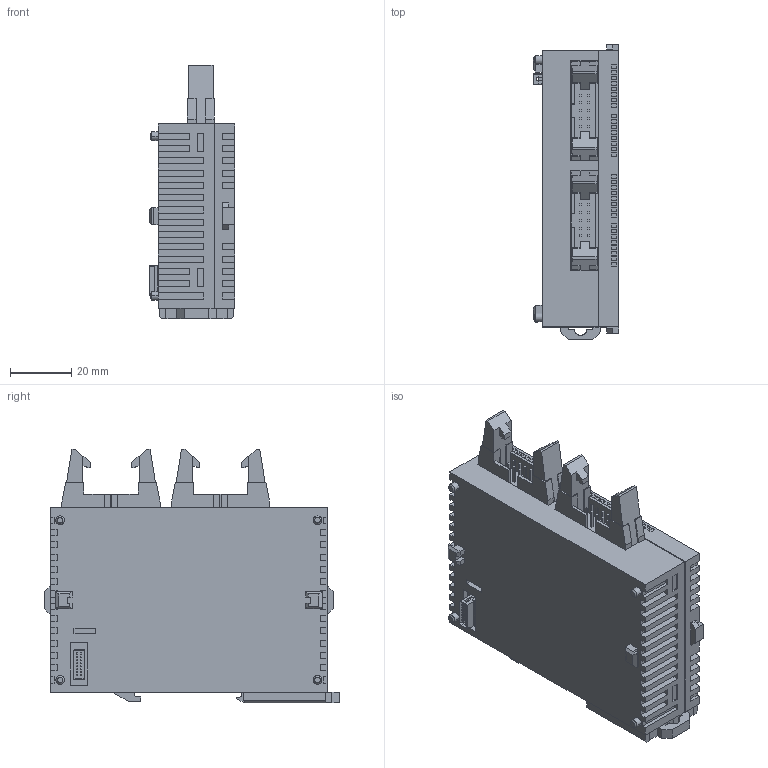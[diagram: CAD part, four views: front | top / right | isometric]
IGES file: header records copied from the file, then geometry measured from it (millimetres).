
Start section: SolidWorks IGES file using analytic representation for surfaces
Global section: file name: C:\catalog\FP0R_catalog\afp0re16t\afp0re16t.IGS; native system: SolidWorks 2010; preprocessor: SolidWorks 2010; author: ek1676; date: 130628.145926; units: millimetre
Bounding box: 28 x 96.05 x 82.7 mm (x, y, z)
Surface area: 28392.9 mm2 (no closed solid volume)
Topology: 0 solids, 0 shells, 946 faces, 5740 edges, 5740 vertices
Faces by surface type: bspline 905, revolution 41
